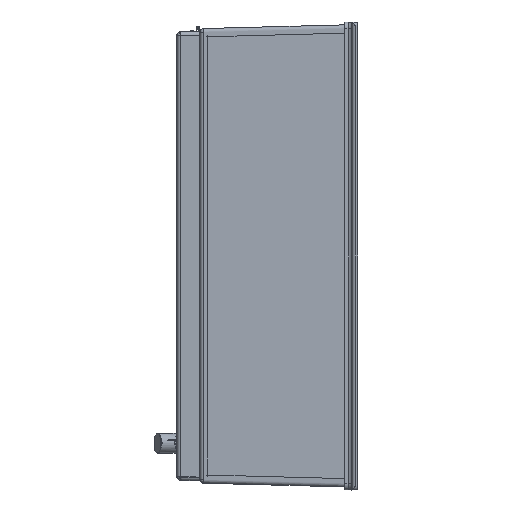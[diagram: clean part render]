
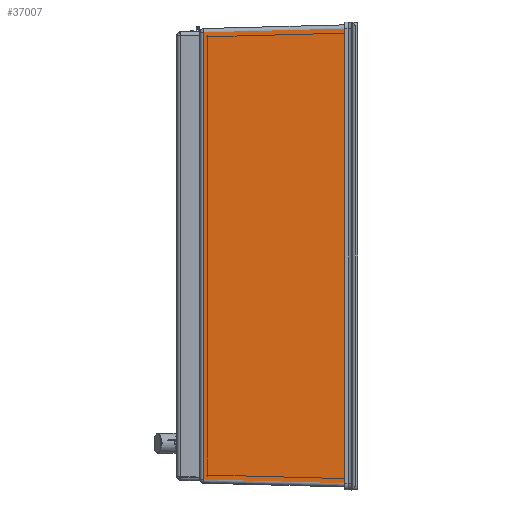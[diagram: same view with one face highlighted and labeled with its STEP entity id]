
A CAD part, left-side view. The second image highlights one B-rep face of the part: STEP entity #37007.
In plain terms, the highlighted planar face has unit normal (-1, 0.026, 0) as drawn and (0, 0.026, -1) by its records, which use the part's own axes.
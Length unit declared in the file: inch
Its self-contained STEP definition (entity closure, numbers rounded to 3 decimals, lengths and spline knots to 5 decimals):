
#253 = DIRECTION ( 'NONE',  ( 1., 0., 0. ) ) ;
#908 = CARTESIAN_POINT ( 'NONE',  ( 15.12691, -10.74, -18.37691 ) ) ;
#1925 = DIRECTION ( 'NONE',  ( 0., 1., 0.026 ) ) ;
#4103 = EDGE_CURVE ( 'NONE', #25899, #77030, #35756, .T. ) ;
#5998 = CARTESIAN_POINT ( 'NONE',  ( 15.12699, -10.74, -18.37691 ) ) ;
#6332 = CARTESIAN_POINT ( 'NONE',  ( -15.125, -10.74, -18.37691 ) ) ;
#10777 = CARTESIAN_POINT ( 'NONE',  ( -15.12691, -10.74, -18.37691 ) ) ;
#12353 = EDGE_LOOP ( 'NONE', ( #75537, #14328, #39414, #65653, #29783, #12710 ) ) ;
#12710 = ORIENTED_EDGE ( 'NONE', *, *, #4103, .T. ) ;
#14328 = ORIENTED_EDGE ( 'NONE', *, *, #33267, .T. ) ;
#14468 = LINE ( 'NONE', #6332, #77516 ) ;
#14749 = LINE ( 'NONE', #66815, #73937 ) ;
#17609 = EDGE_CURVE ( 'NONE', #17883, #25899, #64504, .T. ) ;
#17883 = VERTEX_POINT ( 'NONE', #23385 ) ;
#18997 = AXIS2_PLACEMENT_3D ( 'NONE', #20002, #38438, #1925 ) ;
#20002 = CARTESIAN_POINT ( 'NONE',  ( -15.125, -1.12, -18.125 ) ) ;
#21320 = VERTEX_POINT ( 'NONE', #65718 ) ;
#23078 = CARTESIAN_POINT ( 'NONE',  ( -15.12697, -10.74, -18.37691 ) ) ;
#23385 = CARTESIAN_POINT ( 'NONE',  ( 14.88146, -1.36346, -18.13138 ) ) ;
#24037 = EDGE_CURVE ( 'NONE', #60475, #17883, #14749, .T. ) ;
#24598 = CARTESIAN_POINT ( 'NONE',  ( 15.12697, -10.74, -18.37691 ) ) ;
#25899 = VERTEX_POINT ( 'NONE', #5998 ) ;
#26383 = EDGE_CURVE ( 'NONE', #21320, #60475, #39263, .T. ) ;
#29783 = ORIENTED_EDGE ( 'NONE', *, *, #17609, .T. ) ;
#32042 = VECTOR ( 'NONE', #62663, 39.37008 ) ;
#32270 = PLANE ( 'NONE',  #18997 ) ;
#33252 = CARTESIAN_POINT ( 'NONE',  ( 15.12691, -10.74, -18.37691 ) ) ;
#33267 = EDGE_CURVE ( 'NONE', #68821, #21320, #42961, .T. ) ;
#35756 =( BOUNDED_CURVE ( )  B_SPLINE_CURVE ( 3, ( #37430, #24598, #43283, #908 ),
 .UNSPECIFIED., .F., .F. ) 
 B_SPLINE_CURVE_WITH_KNOTS ( ( 4, 4 ),
 ( 3.14125, 3.14159 ),
 .UNSPECIFIED. ) 
 CURVE ( )  GEOMETRIC_REPRESENTATION_ITEM ( )  RATIONAL_B_SPLINE_CURVE ( ( 1., 1., 1., 1. ) ) 
 REPRESENTATION_ITEM ( '' )  );
#37007 = ADVANCED_FACE ( 'NONE', ( #60202 ), #32270, .T. ) ;
#37430 = CARTESIAN_POINT ( 'NONE',  ( 15.12699, -10.74, -18.37691 ) ) ;
#38438 = DIRECTION ( 'NONE',  ( 0., 0.026, -1. ) ) ;
#39263 = LINE ( 'NONE', #48615, #71736 ) ;
#39414 = ORIENTED_EDGE ( 'NONE', *, *, #26383, .T. ) ;
#39741 = EDGE_CURVE ( 'NONE', #68821, #77030, #14468, .T. ) ;
#42961 =( BOUNDED_CURVE ( )  B_SPLINE_CURVE ( 3, ( #10777, #47327, #23078, #65770 ),
 .UNSPECIFIED., .F., .F. ) 
 B_SPLINE_CURVE_WITH_KNOTS ( ( 4, 4 ),
 ( 3.14159, 3.14194 ),
 .UNSPECIFIED. ) 
 CURVE ( )  GEOMETRIC_REPRESENTATION_ITEM ( )  RATIONAL_B_SPLINE_CURVE ( ( 1., 1., 1., 1. ) ) 
 REPRESENTATION_ITEM ( '' )  );
#43283 = CARTESIAN_POINT ( 'NONE',  ( 15.12694, -10.74, -18.37691 ) ) ;
#45286 = CARTESIAN_POINT ( 'NONE',  ( -14.88146, -1.36346, -18.13138 ) ) ;
#47327 = CARTESIAN_POINT ( 'NONE',  ( -15.12694, -10.74, -18.37691 ) ) ;
#48393 = DIRECTION ( 'NONE',  ( 1., 0., 0. ) ) ;
#48615 = CARTESIAN_POINT ( 'NONE',  ( -14.87526, -1.12654, -18.12517 ) ) ;
#54251 = DIRECTION ( 'NONE',  ( 0.026, 0.999, 0.026 ) ) ;
#60202 = FACE_OUTER_BOUND ( 'NONE', #12353, .T. ) ;
#60475 = VERTEX_POINT ( 'NONE', #45286 ) ;
#62632 = CARTESIAN_POINT ( 'NONE',  ( -15.12691, -10.74, -18.37691 ) ) ;
#62663 = DIRECTION ( 'NONE',  ( 0.026, -0.999, -0.026 ) ) ;
#64504 = LINE ( 'NONE', #68788, #32042 ) ;
#65653 = ORIENTED_EDGE ( 'NONE', *, *, #24037, .T. ) ;
#65718 = CARTESIAN_POINT ( 'NONE',  ( -15.12699, -10.74, -18.37691 ) ) ;
#65770 = CARTESIAN_POINT ( 'NONE',  ( -15.12699, -10.74, -18.37691 ) ) ;
#66815 = CARTESIAN_POINT ( 'NONE',  ( -15.125, -1.36346, -18.13138 ) ) ;
#68788 = CARTESIAN_POINT ( 'NONE',  ( 14.85454, -0.3355, -18.10446 ) ) ;
#68821 = VERTEX_POINT ( 'NONE', #62632 ) ;
#71736 = VECTOR ( 'NONE', #54251, 39.37008 ) ;
#73937 = VECTOR ( 'NONE', #48393, 39.37008 ) ;
#75537 = ORIENTED_EDGE ( 'NONE', *, *, #39741, .F. ) ;
#77030 = VERTEX_POINT ( 'NONE', #33252 ) ;
#77516 = VECTOR ( 'NONE', #253, 39.37008 ) ;
